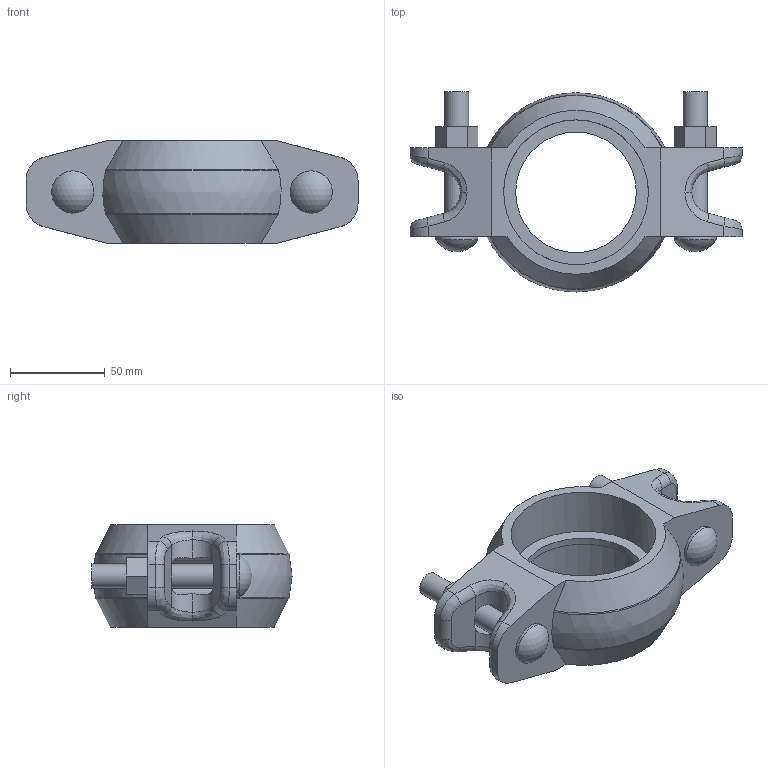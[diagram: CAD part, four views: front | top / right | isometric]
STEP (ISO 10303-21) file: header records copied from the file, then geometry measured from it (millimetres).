
FILE_DESCRIPTION(/* description */ ('QUICKVIC RIGID COUPLING FOR STEEL STYLE 107N','CAx-IF Rec.Pracs.---Representation and Presentation of Product Manufacturing Information (PMI)---4.0---2014-10-13'),/* implementation_level */ '2;1');
FILE_NAME(/* name */ 'C:\Users\Vjadhav\Desktop\CAD for Inventor\1\Coupling bolt thickness\107N\STEP\Victaulic_IPS_Coupling Rigid_Style 107N (OGS)\Victaulic_IPS_Coupling Rigid_Style 107N (OGS)_02.5 (76.1) (65).stp',/* time_stamp */ '2022-03-28T14:19:07+06:00',/* author */ ('jheald'),/* organization */ ('Victaulic'),/* preprocessor_version */ 'ST-DEVELOPER v17.2',/* originating_system */ 'Autodesk Inventor 2019',/* authorisation */ '');
FILE_SCHEMA (('AP242_MANAGED_MODEL_BASED_3D_ENGINEERING_MIM_LF { 1 0 10303 442 1 1 4 }'));
Length unit declared in the file: inch
Products named in the file (1): 107N-02.5 (76.1)
Bounding box: 174.75 x 105.28 x 54.1 mm (x, y, z)
Volume: 291015.3 mm3; surface area: 60257.1 mm2
Topology: 1 solids, 1 shells, 123 faces, 327 edges, 210 vertices
Faces by surface type: plane 50, cylinder 45, bspline 18, cone 4, torus 4, sphere 2
Full cylindrical faces by diameter (mm): 12.7 x4, 22.225 x2, 63.5 x1, 76.2 x2
Entity records: 4704 total; most frequent: CARTESIAN_POINT 1366, DIRECTION 671, ORIENTED_EDGE 654, EDGE_CURVE 327, AXIS2_PLACEMENT_3D 253, VERTEX_POINT 210, LINE 165, VECTOR 165
